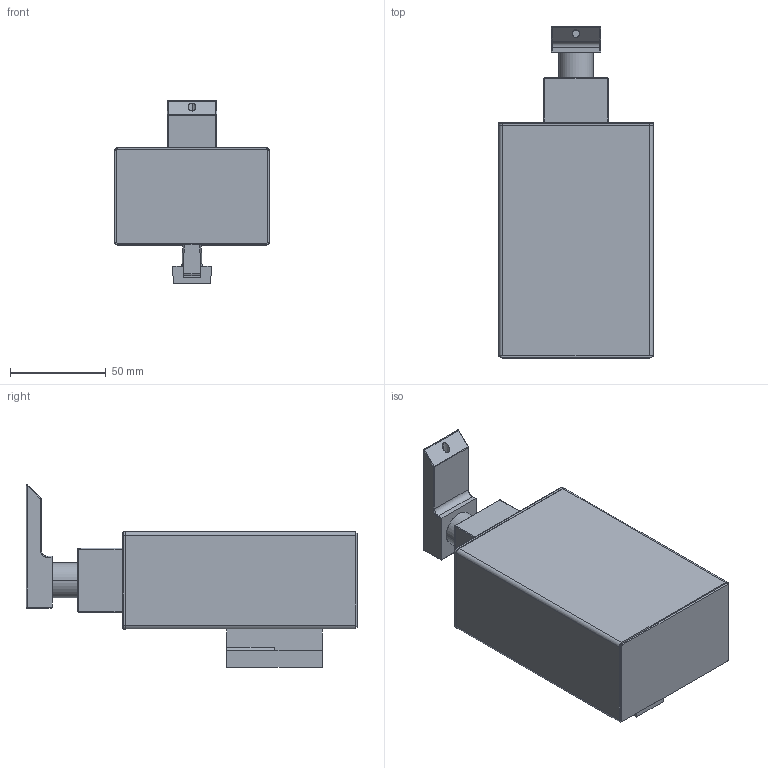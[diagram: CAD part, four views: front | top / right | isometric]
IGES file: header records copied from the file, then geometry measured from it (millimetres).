
Start section: SolidWorks IGES file using analytic representation for surfaces
Global section: file name: G:\Projects\New project\For Marketing\IGS\IGS\2015-12-11\497801002VW.IGS; native system: SolidWorks 2010; preprocessor: SolidWorks 2010; author: linda; date: 151207.135515; units: millimetre
Bounding box: 80.8 x 173.02 x 95.19 mm (x, y, z)
Surface area: 55760.3 mm2 (no closed solid volume)
Topology: 0 solids, 0 shells, 135 faces, 1441 edges, 1433 vertices
Faces by surface type: revolution 69, bspline 66
